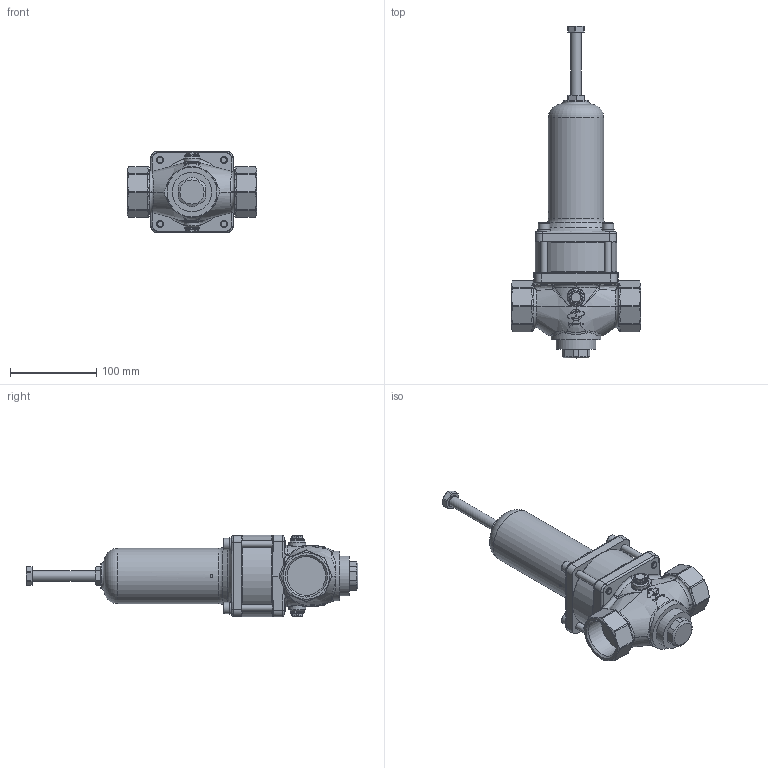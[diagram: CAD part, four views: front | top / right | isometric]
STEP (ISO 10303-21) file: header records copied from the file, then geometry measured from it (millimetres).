
FILE_DESCRIPTION(/* description */ (''),/* implementation_level */ '2;1');
FILE_NAME(/* name */ '\\WYPS\swap\junkers\7_Zwischenablage\7.1_Änderungsdaten\Gewinde in Hauptkörper\100 021 - G\032506\032506.stp',/* time_stamp */ '2019-06-14T13:24:22+02:00',/* author */ ('junkers'),/* organization */ (''),/* preprocessor_version */ 'ST-DEVELOPER v18',/* originating_system */ 'Autodesk Inventor 2020',/* authorisation */ '');
FILE_SCHEMA (('AUTOMOTIVE_DESIGN { 1 0 10303 214 3 1 1 }'));
Length unit declared in the file: millimetre
Products named in the file (1): 032506_step
Bounding box: 150 x 385.5 x 95 mm (x, y, z)
Volume: 1387935.8 mm3; surface area: 126715.6 mm2
Topology: 1 solids, 1 shells, 730 faces, 2028 edges, 1322 vertices
Faces by surface type: plane 266, bspline 246, cylinder 117, cone 65, torus 22, sphere 14
Full cylindrical faces by diameter (mm): 3 x1, 8 x8, 8.5 x4, 11.445 x2, 12 x1, 13 x4, 14 x1, 16.5 x2, 30 x1, 44.845 x2, 46 x1, 58 x1, 64 x1, 78.1 x1, 83.9 x1, 84 x1, 95 x1
Entity records: 126732 total; most frequent: CARTESIAN_POINT 109722, ORIENTED_EDGE 4024, DIRECTION 2959, EDGE_CURVE 2012, VERTEX_POINT 1322, AXIS2_PLACEMENT_3D 1234, EDGE_LOOP 790, FACE_OUTER_BOUND 730
